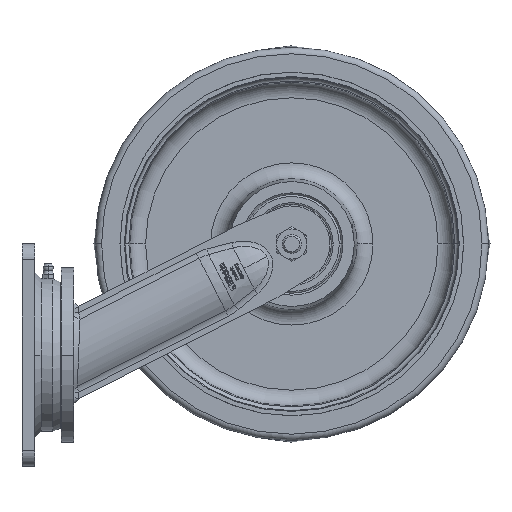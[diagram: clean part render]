
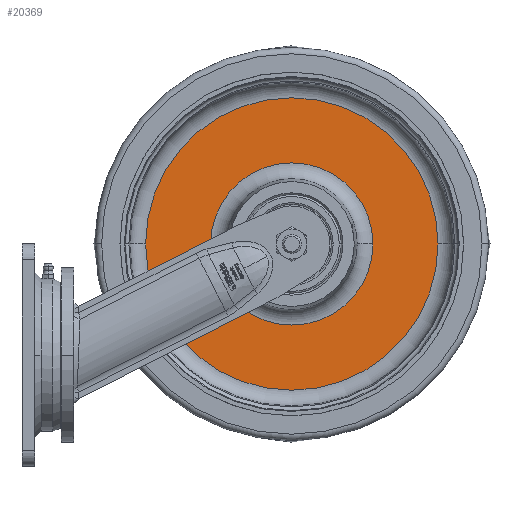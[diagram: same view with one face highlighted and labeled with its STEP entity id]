
A CAD part, left-side view. The second image highlights one B-rep face of the part: STEP entity #20369.
In plain terms, the highlighted planar face has unit normal (-1, 0, 0).
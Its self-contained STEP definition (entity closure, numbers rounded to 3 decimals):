
#2484 = EDGE_CURVE ( 'NONE', #21021, #69181, #17617, .T. ) ;
#2757 = DIRECTION ( 'NONE',  ( 1., 0., 0. ) ) ;
#5020 = AXIS2_PLACEMENT_3D ( 'NONE', #44535, #10070, #86189 ) ;
#6170 = AXIS2_PLACEMENT_3D ( 'NONE', #53732, #79356, #81212 ) ;
#6219 = VERTEX_POINT ( 'NONE', #73553 ) ;
#10070 = DIRECTION ( 'NONE',  ( 1., 0., 0. ) ) ;
#11311 = EDGE_LOOP ( 'NONE', ( #48122, #70133 ) ) ;
#11468 = AXIS2_PLACEMENT_3D ( 'NONE', #30852, #2757, #78033 ) ;
#17617 = CIRCLE ( 'NONE', #6170, 92.122 ) ;
#19949 = EDGE_CURVE ( 'NONE', #64207, #6219, #65775, .T. ) ;
#20369 = ADVANCED_FACE ( 'NONE', ( #54904, #81892 ), #44187, .F. ) ;
#21001 = CIRCLE ( 'NONE', #5020, 51.094 ) ;
#21021 = VERTEX_POINT ( 'NONE', #61469 ) ;
#24113 = ORIENTED_EDGE ( 'NONE', *, *, #77315, .F. ) ;
#30158 = DIRECTION ( 'NONE',  ( 1., 0., 0. ) ) ;
#30852 = CARTESIAN_POINT ( 'NONE',  ( -5., 0., 0. ) ) ;
#36887 = AXIS2_PLACEMENT_3D ( 'NONE', #85437, #30158, #71546 ) ;
#44187 = PLANE ( 'NONE',  #11468 ) ;
#44535 = CARTESIAN_POINT ( 'NONE',  ( -5., 0., 0. ) ) ;
#44669 = CARTESIAN_POINT ( 'NONE',  ( -5., 92.122, 0. ) ) ;
#48122 = ORIENTED_EDGE ( 'NONE', *, *, #19949, .T. ) ;
#52862 = DIRECTION ( 'NONE',  ( 0., 1., 0. ) ) ;
#53732 = CARTESIAN_POINT ( 'NONE',  ( -5., 0., 0. ) ) ;
#54904 = FACE_OUTER_BOUND ( 'NONE', #77554, .T. ) ;
#58024 = EDGE_CURVE ( 'NONE', #6219, #64207, #21001, .T. ) ;
#60440 = CARTESIAN_POINT ( 'NONE',  ( -5., 0., 0. ) ) ;
#61469 = CARTESIAN_POINT ( 'NONE',  ( -5., -92.122, 0. ) ) ;
#64207 = VERTEX_POINT ( 'NONE', #86739 ) ;
#65775 = CIRCLE ( 'NONE', #36887, 51.094 ) ;
#69181 = VERTEX_POINT ( 'NONE', #44669 ) ;
#70133 = ORIENTED_EDGE ( 'NONE', *, *, #58024, .T. ) ;
#70283 = CIRCLE ( 'NONE', #77807, 92.122 ) ;
#71546 = DIRECTION ( 'NONE',  ( 0., 1., 0. ) ) ;
#73553 = CARTESIAN_POINT ( 'NONE',  ( -5., -51.094, 0. ) ) ;
#74121 = ORIENTED_EDGE ( 'NONE', *, *, #2484, .F. ) ;
#77315 = EDGE_CURVE ( 'NONE', #69181, #21021, #70283, .T. ) ;
#77554 = EDGE_LOOP ( 'NONE', ( #24113, #74121 ) ) ;
#77807 = AXIS2_PLACEMENT_3D ( 'NONE', #60440, #87592, #52862 ) ;
#78033 = DIRECTION ( 'NONE',  ( 0., 1., 0. ) ) ;
#79356 = DIRECTION ( 'NONE',  ( 1., 0., 0. ) ) ;
#81212 = DIRECTION ( 'NONE',  ( 0., -1., 0. ) ) ;
#81892 = FACE_BOUND ( 'NONE', #11311, .T. ) ;
#85437 = CARTESIAN_POINT ( 'NONE',  ( -5., 0., 0. ) ) ;
#86189 = DIRECTION ( 'NONE',  ( 0., -1., 0. ) ) ;
#86739 = CARTESIAN_POINT ( 'NONE',  ( -5., 51.094, 0. ) ) ;
#87592 = DIRECTION ( 'NONE',  ( 1., 0., 0. ) ) ;
